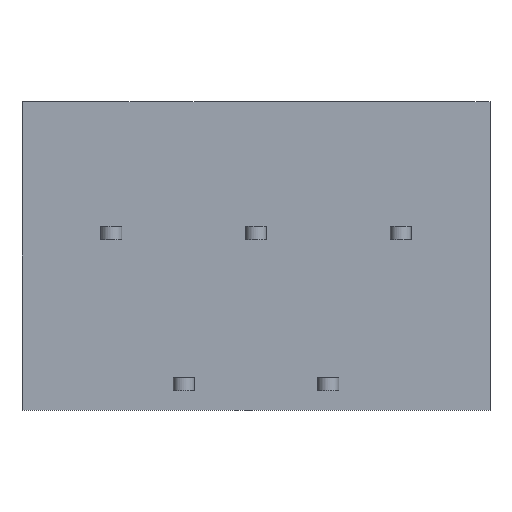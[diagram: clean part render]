
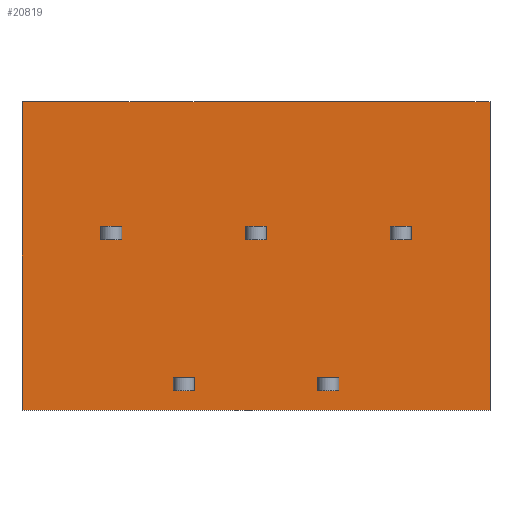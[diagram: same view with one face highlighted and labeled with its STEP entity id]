
A CAD part, front view. The second image highlights one B-rep face of the part: STEP entity #20819.
In plain terms, the highlighted planar face has unit normal (0, -1, 0).
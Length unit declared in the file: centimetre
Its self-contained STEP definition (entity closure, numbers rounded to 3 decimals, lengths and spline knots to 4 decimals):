
#1499=VERTEX_POINT('',#28157);
#1500=VERTEX_POINT('',#28158);
#1546=VERTEX_POINT('',#28279);
#1547=VERTEX_POINT('',#28280);
#1554=VERTEX_POINT('',#28296);
#1584=VERTEX_POINT('',#28367);
#1659=VERTEX_POINT('',#28630);
#1664=VERTEX_POINT('',#28646);
#1665=VERTEX_POINT('',#28647);
#1668=VERTEX_POINT('',#28655);
#1670=VERTEX_POINT('',#28661);
#1814=VERTEX_POINT('',#29131);
#1815=VERTEX_POINT('',#29135);
#1816=VERTEX_POINT('',#29136);
#1817=VERTEX_POINT('',#29138);
#1818=VERTEX_POINT('',#29140);
#1819=VERTEX_POINT('',#29143);
#1820=VERTEX_POINT('',#29144);
#1821=VERTEX_POINT('',#29146);
#1822=VERTEX_POINT('',#29148);
#1823=VERTEX_POINT('',#29151);
#1824=VERTEX_POINT('',#29152);
#1825=VERTEX_POINT('',#29154);
#1826=VERTEX_POINT('',#29156);
#3689=VECTOR('',#23207,1.);
#3743=VECTOR('',#23292,1.);
#3751=VECTOR('',#23301,1.);
#3776=VECTOR('',#23353,1.);
#3778=VECTOR('',#23356,1.);
#3849=VECTOR('',#23544,1.);
#3856=VECTOR('',#23556,1.);
#3859=VECTOR('',#23562,1.);
#3862=VECTOR('',#23566,1.);
#3885=VECTOR('',#23611,1.);
#4022=VECTOR('',#23914,1.);
#4023=VECTOR('',#23916,1.);
#4024=VECTOR('',#23917,1.);
#4025=VECTOR('',#23918,1.);
#4026=VECTOR('',#23919,1.);
#4027=VECTOR('',#23920,1.);
#4028=VECTOR('',#23921,1.);
#4029=VECTOR('',#23922,1.);
#4030=VECTOR('',#23923,1.);
#4031=VECTOR('',#23924,1.);
#4032=VECTOR('',#23925,1.);
#4033=VECTOR('',#23926,1.);
#4034=VECTOR('',#23927,1.);
#4035=VECTOR('',#23928,1.);
#6134=LINE('',#28156,#3689);
#6188=LINE('',#28278,#3743);
#6196=LINE('',#28295,#3751);
#6221=LINE('',#28366,#3776);
#6223=LINE('',#28370,#3778);
#6294=LINE('',#28629,#3849);
#6301=LINE('',#28645,#3856);
#6304=LINE('',#28654,#3859);
#6307=LINE('',#28660,#3862);
#6330=LINE('',#28721,#3885);
#6467=LINE('',#29132,#4022);
#6468=LINE('',#29134,#4023);
#6469=LINE('',#29137,#4024);
#6470=LINE('',#29139,#4025);
#6471=LINE('',#29141,#4026);
#6472=LINE('',#29142,#4027);
#6473=LINE('',#29145,#4028);
#6474=LINE('',#29147,#4029);
#6475=LINE('',#29149,#4030);
#6476=LINE('',#29150,#4031);
#6477=LINE('',#29153,#4032);
#6478=LINE('',#29155,#4033);
#6479=LINE('',#29157,#4034);
#6480=LINE('',#29158,#4035);
#8689=EDGE_CURVE('',#1499,#1500,#6134,.T.);
#8750=EDGE_CURVE('',#1546,#1547,#6188,.T.);
#8758=EDGE_CURVE('',#1554,#1546,#6196,.T.);
#8793=EDGE_CURVE('',#1584,#1554,#6221,.T.);
#8795=EDGE_CURVE('',#1547,#1584,#6223,.T.);
#8905=EDGE_CURVE('',#1499,#1659,#6294,.T.);
#8913=EDGE_CURVE('',#1664,#1665,#6301,.T.);
#8917=EDGE_CURVE('',#1665,#1668,#6304,.T.);
#8920=EDGE_CURVE('',#1668,#1670,#6307,.T.);
#8951=EDGE_CURVE('',#1670,#1664,#6330,.T.);
#9146=EDGE_CURVE('',#1500,#1814,#6467,.T.);
#9147=EDGE_CURVE('',#1815,#1816,#6468,.T.);
#9148=EDGE_CURVE('',#1817,#1815,#6469,.T.);
#9149=EDGE_CURVE('',#1818,#1817,#6470,.T.);
#9150=EDGE_CURVE('',#1816,#1818,#6471,.T.);
#9151=EDGE_CURVE('',#1819,#1820,#6472,.T.);
#9152=EDGE_CURVE('',#1821,#1819,#6473,.T.);
#9153=EDGE_CURVE('',#1822,#1821,#6474,.T.);
#9154=EDGE_CURVE('',#1820,#1822,#6475,.T.);
#9155=EDGE_CURVE('',#1823,#1824,#6476,.T.);
#9156=EDGE_CURVE('',#1825,#1823,#6477,.T.);
#9157=EDGE_CURVE('',#1826,#1825,#6478,.T.);
#9158=EDGE_CURVE('',#1824,#1826,#6479,.T.);
#9159=EDGE_CURVE('',#1814,#1659,#6480,.T.);
#13279=ORIENTED_EDGE('',*,*,#9147,.F.);
#13280=ORIENTED_EDGE('',*,*,#9148,.F.);
#13281=ORIENTED_EDGE('',*,*,#9149,.F.);
#13282=ORIENTED_EDGE('',*,*,#9150,.F.);
#13283=ORIENTED_EDGE('',*,*,#9151,.F.);
#13284=ORIENTED_EDGE('',*,*,#9152,.F.);
#13285=ORIENTED_EDGE('',*,*,#9153,.F.);
#13286=ORIENTED_EDGE('',*,*,#9154,.F.);
#13287=ORIENTED_EDGE('',*,*,#8758,.T.);
#13288=ORIENTED_EDGE('',*,*,#8750,.T.);
#13289=ORIENTED_EDGE('',*,*,#8795,.T.);
#13290=ORIENTED_EDGE('',*,*,#8793,.T.);
#13291=ORIENTED_EDGE('',*,*,#8920,.F.);
#13292=ORIENTED_EDGE('',*,*,#8917,.F.);
#13293=ORIENTED_EDGE('',*,*,#8913,.F.);
#13294=ORIENTED_EDGE('',*,*,#8951,.F.);
#13295=ORIENTED_EDGE('',*,*,#9155,.F.);
#13296=ORIENTED_EDGE('',*,*,#9156,.F.);
#13297=ORIENTED_EDGE('',*,*,#9157,.F.);
#13298=ORIENTED_EDGE('',*,*,#9158,.F.);
#13299=ORIENTED_EDGE('',*,*,#9146,.T.);
#13300=ORIENTED_EDGE('',*,*,#9159,.T.);
#13301=ORIENTED_EDGE('',*,*,#8905,.F.);
#13302=ORIENTED_EDGE('',*,*,#8689,.T.);
#18189=EDGE_LOOP('',(#13279,#13280,#13281,#13282));
#18190=EDGE_LOOP('',(#13283,#13284,#13285,#13286));
#18191=EDGE_LOOP('',(#13287,#13288,#13289,#13290));
#18192=EDGE_LOOP('',(#13291,#13292,#13293,#13294));
#18193=EDGE_LOOP('',(#13295,#13296,#13297,#13298));
#18194=EDGE_LOOP('',(#13299,#13300,#13301,#13302));
#19525=FACE_BOUND('',#18189,.T.);
#19526=FACE_BOUND('',#18190,.T.);
#19527=FACE_BOUND('',#18191,.T.);
#19528=FACE_BOUND('',#18192,.T.);
#19529=FACE_BOUND('',#18193,.T.);
#19530=FACE_BOUND('',#18194,.T.);
#20819=ADVANCED_FACE('',(#19525,#19526,#19527,#19528,#19529,#19530),#21955,
 .T.);
#21955=PLANE('',#35428);
#23207=DIRECTION('',(0.,0.,-1.));
#23292=DIRECTION('',(0.,0.,1.));
#23301=DIRECTION('',(-1.,0.,0.));
#23353=DIRECTION('',(0.,0.,-1.));
#23356=DIRECTION('',(1.,0.,0.));
#23544=DIRECTION('',(1.,0.,0.));
#23556=DIRECTION('',(-1.,0.,0.));
#23562=DIRECTION('',(0.,0.,-1.));
#23566=DIRECTION('',(1.,0.,0.));
#23611=DIRECTION('',(0.,0.,1.));
#23914=DIRECTION('',(1.,0.,0.));
#23915=DIRECTION('',(0.,-1.,0.));
#23916=DIRECTION('',(1.,0.,0.));
#23917=DIRECTION('',(0.,0.,-1.));
#23918=DIRECTION('',(-1.,0.,0.));
#23919=DIRECTION('',(0.,0.,1.));
#23920=DIRECTION('',(1.,0.,0.));
#23921=DIRECTION('',(0.,0.,-1.));
#23922=DIRECTION('',(-1.,0.,0.));
#23923=DIRECTION('',(0.,0.,1.));
#23924=DIRECTION('',(1.,0.,0.));
#23925=DIRECTION('',(0.,0.,-1.));
#23926=DIRECTION('',(-1.,0.,0.));
#23927=DIRECTION('',(0.,0.,1.));
#23928=DIRECTION('',(0.,0.,1.));
#28156=CARTESIAN_POINT('',(-2.33,-2.045,1.75));
#28157=CARTESIAN_POINT('',(-2.33,-2.045,1.75));
#28158=CARTESIAN_POINT('',(-2.33,-2.045,-0.6));
#28278=CARTESIAN_POINT('',(-0.6299,-2.045,0.375));
#28279=CARTESIAN_POINT('',(-0.6299,-2.045,0.7));
#28280=CARTESIAN_POINT('',(-0.6299,-2.045,0.8));
#28295=CARTESIAN_POINT('',(-0.6049,-2.045,0.7));
#28296=CARTESIAN_POINT('',(-0.4699,-2.045,0.7));
#28366=CARTESIAN_POINT('',(-0.4699,-2.045,0.375));
#28367=CARTESIAN_POINT('',(-0.4699,-2.045,0.8));
#28370=CARTESIAN_POINT('',(-0.6049,-2.045,0.8));
#28629=CARTESIAN_POINT('',(0.11,-2.045,1.75));
#28630=CARTESIAN_POINT('',(1.23,-2.045,1.75));
#28645=CARTESIAN_POINT('',(0.3301,-2.045,0.8));
#28646=CARTESIAN_POINT('',(0.6301,-2.045,0.8));
#28647=CARTESIAN_POINT('',(0.4701,-2.045,0.8));
#28654=CARTESIAN_POINT('',(0.4701,-2.045,0.9625));
#28655=CARTESIAN_POINT('',(0.4701,-2.045,0.7));
#28660=CARTESIAN_POINT('',(0.3301,-2.045,0.7));
#28661=CARTESIAN_POINT('',(0.6301,-2.045,0.7));
#28721=CARTESIAN_POINT('',(0.6301,-2.045,0.9625));
#29131=CARTESIAN_POINT('',(1.23,-2.045,-0.6));
#29132=CARTESIAN_POINT('',(-2.33,-2.045,-0.6));
#29133=CARTESIAN_POINT('',(-0.66,-2.045,0.));
#29134=CARTESIAN_POINT('',(-1.32,-2.045,-0.45));
#29135=CARTESIAN_POINT('',(-1.18,-2.045,-0.45));
#29136=CARTESIAN_POINT('',(-1.02,-2.045,-0.45));
#29137=CARTESIAN_POINT('',(-1.18,-2.045,-0.2));
#29138=CARTESIAN_POINT('',(-1.18,-2.045,-0.35));
#29139=CARTESIAN_POINT('',(-1.32,-2.045,-0.35));
#29140=CARTESIAN_POINT('',(-1.02,-2.045,-0.35));
#29141=CARTESIAN_POINT('',(-1.02,-2.045,-0.2));
#29142=CARTESIAN_POINT('',(-1.8699,-2.045,0.7));
#29143=CARTESIAN_POINT('',(-1.7299,-2.045,0.7));
#29144=CARTESIAN_POINT('',(-1.5699,-2.045,0.7));
#29145=CARTESIAN_POINT('',(-1.7299,-2.045,0.9625));
#29146=CARTESIAN_POINT('',(-1.7299,-2.045,0.8));
#29147=CARTESIAN_POINT('',(-1.8699,-2.045,0.8));
#29148=CARTESIAN_POINT('',(-1.5699,-2.045,0.8));
#29149=CARTESIAN_POINT('',(-1.5699,-2.045,0.9625));
#29150=CARTESIAN_POINT('',(-0.22,-2.045,-0.45));
#29151=CARTESIAN_POINT('',(-0.08,-2.045,-0.45));
#29152=CARTESIAN_POINT('',(0.08,-2.045,-0.45));
#29153=CARTESIAN_POINT('',(-0.08,-2.045,-0.2));
#29154=CARTESIAN_POINT('',(-0.08,-2.045,-0.35));
#29155=CARTESIAN_POINT('',(-0.22,-2.045,-0.35));
#29156=CARTESIAN_POINT('',(0.08,-2.045,-0.35));
#29157=CARTESIAN_POINT('',(0.08,-2.045,-0.2));
#29158=CARTESIAN_POINT('',(1.23,-2.045,0.6));
#35428=AXIS2_PLACEMENT_3D('',#29133,#23915,$);
